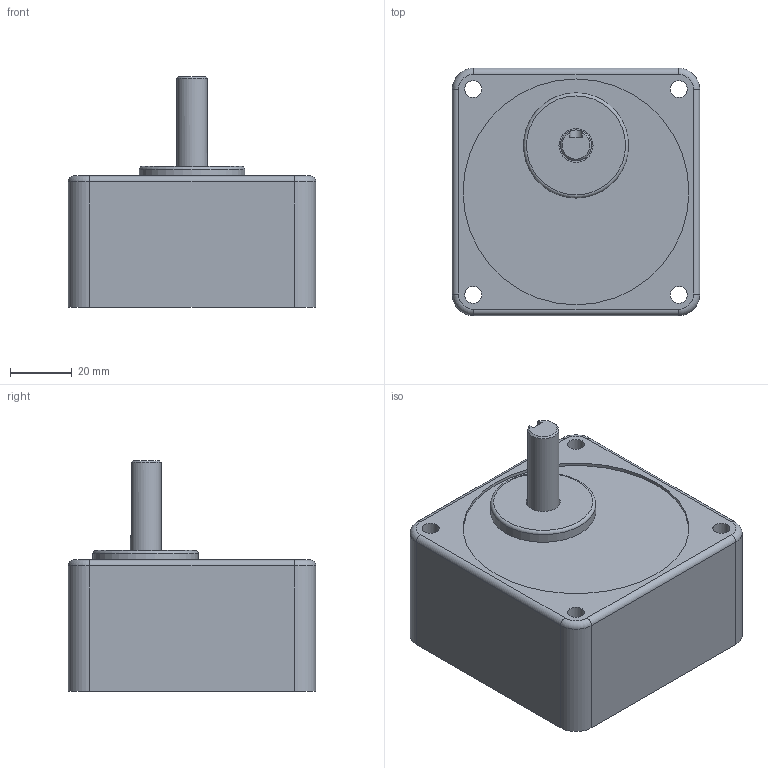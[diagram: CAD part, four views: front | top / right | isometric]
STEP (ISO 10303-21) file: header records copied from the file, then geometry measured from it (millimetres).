
FILE_DESCRIPTION (( 'STEP AP203' ), '1' );
FILE_NAME ('8GBK｡滷MH(20~360).STEP', '2022-09-20T02:37:46', ( '' ), ( '' ), 'SwSTEP 2.0', 'SolidWorks 2018', '' );
FILE_SCHEMA (( 'CONFIG_CONTROL_DESIGN' ));
Length unit declared in the file: millimetre
Products named in the file (2): 8GBK｡滷MH(20~360)
Bounding box: 80 x 80 x 74.5 mm (x, y, z)
Volume: 252544.2 mm3; surface area: 31968.3 mm2
Topology: 1 solids, 1 shells, 40 faces, 89 edges, 57 vertices
Faces by surface type: cylinder 19, plane 15, torus 5, cone 1
Full cylindrical faces by diameter (mm): 5.5 x4, 10 x1, 11 x1, 11.5 x1, 34 x1, 73 x1, 73.1 x1
Entity records: 1238 total; most frequent: CARTESIAN_POINT 206, DIRECTION 199, ORIENTED_EDGE 150, AXIS2_PLACEMENT_3D 85, EDGE_CURVE 75, EDGE_LOOP 65, VERTEX_POINT 54, FACE_OUTER_BOUND 51
